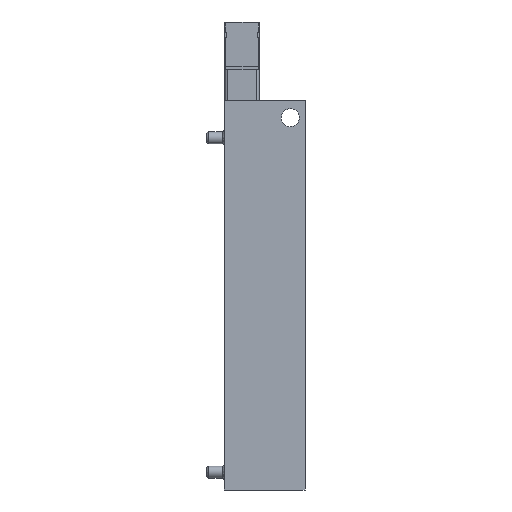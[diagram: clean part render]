
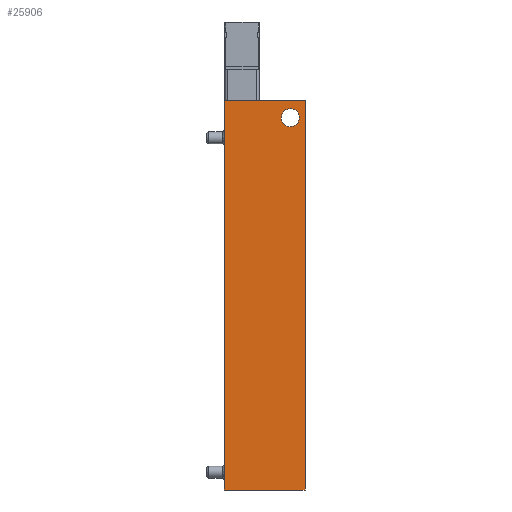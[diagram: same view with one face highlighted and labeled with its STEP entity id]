
A CAD part, front view. The second image highlights one B-rep face of the part: STEP entity #25906.
In plain terms, the highlighted planar face has unit normal (0, -1, 0).
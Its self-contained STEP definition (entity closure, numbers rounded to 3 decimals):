
#1947 = ORIENTED_EDGE ( 'NONE', *, *, #68839, .F. ) ;
#2153 = CARTESIAN_POINT ( 'NONE',  ( 114., 0., 0. ) ) ;
#3785 = VERTEX_POINT ( 'NONE', #84218 ) ;
#8756 = CARTESIAN_POINT ( 'NONE',  ( 0., 0., 23.7 ) ) ;
#10185 = CARTESIAN_POINT ( 'NONE',  ( 0., 0., 23.7 ) ) ;
#12273 = EDGE_LOOP ( 'NONE', ( #63922 ) ) ;
#13235 = DIRECTION ( 'NONE',  ( 0., 0., -1. ) ) ;
#13551 = CARTESIAN_POINT ( 'NONE',  ( 0., 0., 23.7 ) ) ;
#14332 = CIRCLE ( 'NONE', #48531, 2.625 ) ;
#15280 = VECTOR ( 'NONE', #13235, 1000. ) ;
#18707 = VERTEX_POINT ( 'NONE', #21253 ) ;
#21253 = CARTESIAN_POINT ( 'NONE',  ( 0., 0., 0. ) ) ;
#21362 = EDGE_CURVE ( 'NONE', #29325, #18707, #75554, .T. ) ;
#25162 = CARTESIAN_POINT ( 'NONE',  ( 114., 0., 23.7 ) ) ;
#25906 = ADVANCED_FACE ( 'NONE', ( #54284, #54704 ), #71118, .F. ) ;
#26974 = DIRECTION ( 'NONE',  ( -1., 0., 0. ) ) ;
#27064 = LINE ( 'NONE', #8756, #63466 ) ;
#29325 = VERTEX_POINT ( 'NONE', #10185 ) ;
#31938 = VERTEX_POINT ( 'NONE', #2153 ) ;
#33264 = ORIENTED_EDGE ( 'NONE', *, *, #21362, .T. ) ;
#37283 = EDGE_CURVE ( 'NONE', #3785, #3785, #14332, .T. ) ;
#37666 = CARTESIAN_POINT ( 'NONE',  ( 114., 0., 23.7 ) ) ;
#47079 = ORIENTED_EDGE ( 'NONE', *, *, #50929, .T. ) ;
#48531 = AXIS2_PLACEMENT_3D ( 'NONE', #86239, #85758, #85456 ) ;
#50929 = EDGE_CURVE ( 'NONE', #57280, #29325, #27064, .T. ) ;
#51986 = LINE ( 'NONE', #25162, #70218 ) ;
#52757 = EDGE_LOOP ( 'NONE', ( #63187, #47079, #33264, #1947 ) ) ;
#54284 = FACE_OUTER_BOUND ( 'NONE', #52757, .T. ) ;
#54704 = FACE_BOUND ( 'NONE', #12273, .T. ) ;
#56730 = DIRECTION ( 'NONE',  ( -1., 0., 0. ) ) ;
#57280 = VERTEX_POINT ( 'NONE', #37666 ) ;
#63187 = ORIENTED_EDGE ( 'NONE', *, *, #80508, .F. ) ;
#63466 = VECTOR ( 'NONE', #56730, 1000. ) ;
#63922 = ORIENTED_EDGE ( 'NONE', *, *, #37283, .F. ) ;
#66128 = DIRECTION ( 'NONE',  ( 0., 0., -1. ) ) ;
#67733 = LINE ( 'NONE', #67911, #83712 ) ;
#67911 = CARTESIAN_POINT ( 'NONE',  ( 114., 0., 0. ) ) ;
#68839 = EDGE_CURVE ( 'NONE', #31938, #18707, #67733, .T. ) ;
#70218 = VECTOR ( 'NONE', #66128, 1000. ) ;
#70342 = DIRECTION ( 'NONE',  ( 0., 1., 0. ) ) ;
#70444 = CARTESIAN_POINT ( 'NONE',  ( 114., 0., 23.7 ) ) ;
#71118 = PLANE ( 'NONE',  #71241 ) ;
#71241 = AXIS2_PLACEMENT_3D ( 'NONE', #70444, #70342, #80966 ) ;
#75554 = LINE ( 'NONE', #13551, #15280 ) ;
#80508 = EDGE_CURVE ( 'NONE', #57280, #31938, #51986, .T. ) ;
#80966 = DIRECTION ( 'NONE',  ( -1., 0., 0. ) ) ;
#83712 = VECTOR ( 'NONE', #26974, 1000. ) ;
#84218 = CARTESIAN_POINT ( 'NONE',  ( 5., 0., 22.025 ) ) ;
#85456 = DIRECTION ( 'NONE',  ( 0., 0., 1. ) ) ;
#85758 = DIRECTION ( 'NONE',  ( 0., -1., 0. ) ) ;
#86239 = CARTESIAN_POINT ( 'NONE',  ( 5., 0., 19.4 ) ) ;
